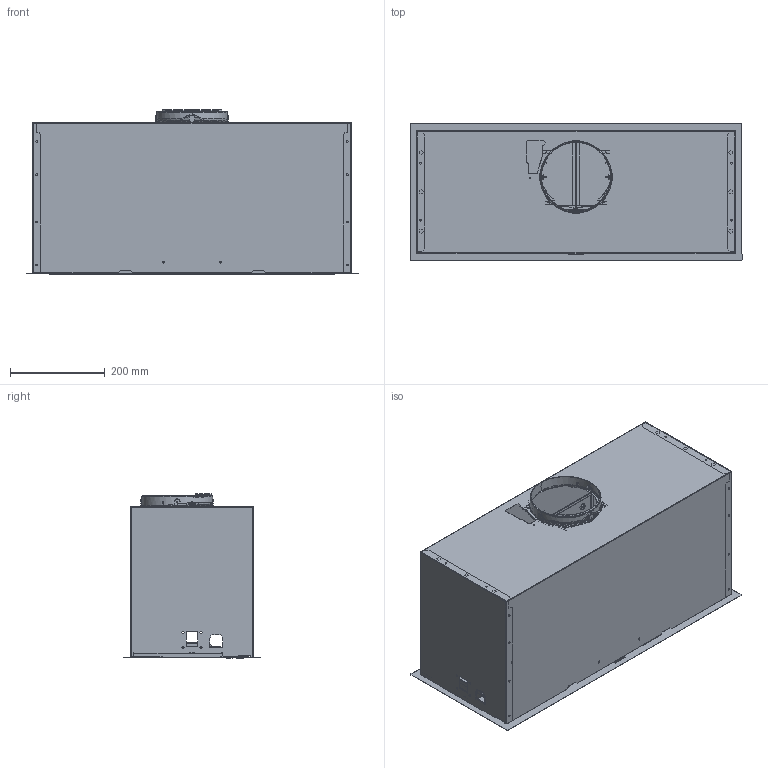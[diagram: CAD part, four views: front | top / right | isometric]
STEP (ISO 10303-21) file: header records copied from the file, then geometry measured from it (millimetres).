
FILE_DESCRIPTION(/* description */ (''),/* implementation_level */ '2;1');
FILE_NAME(/* name */ '3D001_Hoods_Box-Flush-Evo_FBFE-A70',/* time_stamp */ '2024-02-09T10:19:40+01:00',/* author */ (''),/* organization */ (''),/* preprocessor_version */ 'ST-DEVELOPER v19.2',/* originating_system */ 'Rhino 8.3',/* authorisation */ '');
FILE_SCHEMA (('CONFIG_CONTROL_DESIGN'));
Products named in the file (13): Document; K21_039_361; 305056_711_ASM_39_ASM; G02_203_58; FIN_048_14; CME_730_12; 305056_062_148; 305056_031_399; 305056_032_587; 305056_086_248; 305056_137_30_74; 305056_136_30_56; 305056_134_30_3
Bounding box: 700 x 290 x 346.6 mm (x, y, z)
Volume: 785630.4 mm3; surface area: 2422105.8 mm2
Topology: 20 solids, 23 shells, 4440 faces, 11210 edges, 6824 vertices
Faces by surface type: plane 1729, cylinder 1574, bspline 1137
Entity records: 211670 total; most frequent: CARTESIAN_POINT 126998, ORIENTED_EDGE 20279, EDGE_CURVE 10282, DIRECTION 10193, B_SPLINE_CURVE_WITH_KNOTS 6706, AXIS2_PLACEMENT_3D 6595, VERTEX_POINT 6254, EDGE_LOOP 4470
